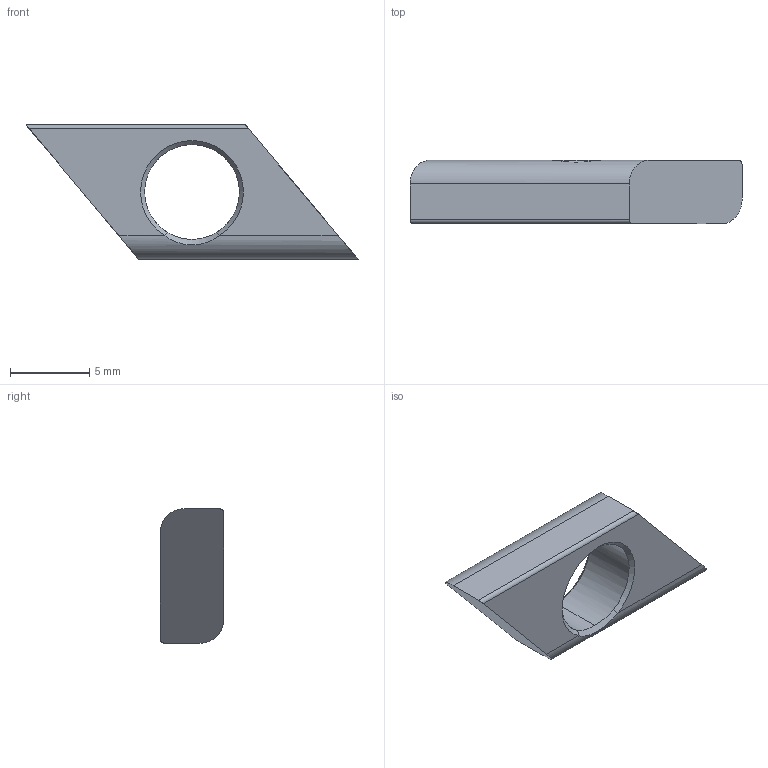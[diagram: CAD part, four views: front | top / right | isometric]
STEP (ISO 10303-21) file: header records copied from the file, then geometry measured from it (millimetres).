
FILE_DESCRIPTION (( 'STEP AP203' ), '1' );
FILE_NAME ('5193.STEP', '2017-04-13T17:24:19', ( '' ), ( '' ), 'SwSTEP 2.0', 'SolidWorks 2014', '' );
FILE_SCHEMA (( 'CONFIG_CONTROL_DESIGN' ));
Length unit declared in the file: millimetre
Products named in the file (1): 5193
Bounding box: 21 x 4 x 8.5 mm (x, y, z)
Volume: 343.3 mm3; surface area: 425 mm2
Topology: 1 solids, 1 shells, 16 faces, 44 edges, 28 vertices
Faces by surface type: cylinder 6, plane 6, cone 2, bspline 2
Entity records: 1007 total; most frequent: CARTESIAN_POINT 563, ORIENTED_EDGE 88, DIRECTION 62, EDGE_CURVE 44, VERTEX_POINT 28, AXIS2_PLACEMENT_3D 21, VECTOR 20, LINE 20
